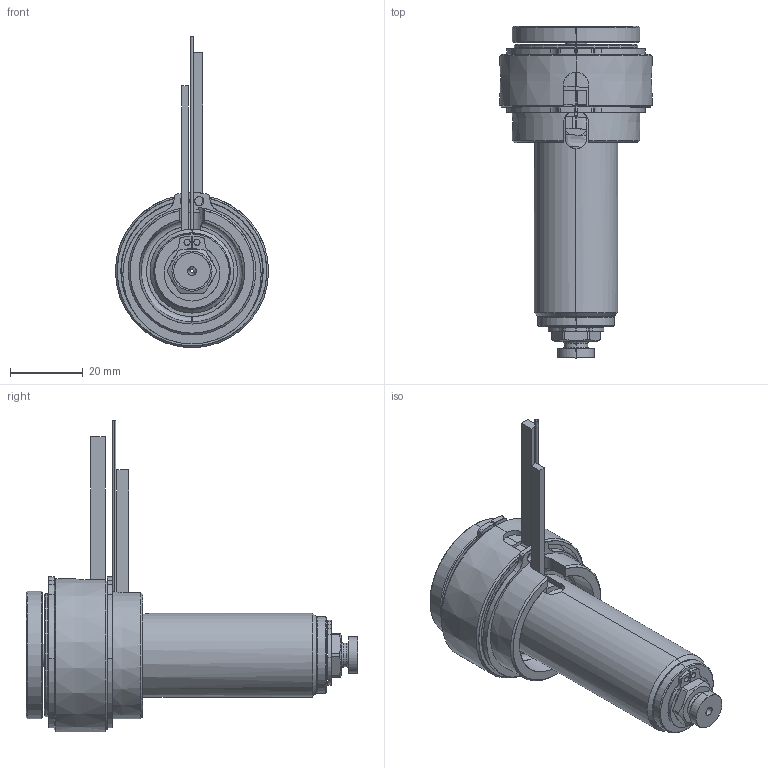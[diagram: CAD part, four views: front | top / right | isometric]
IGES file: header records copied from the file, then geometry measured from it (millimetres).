
Start section: SolidWorks IGES file using analytic representation for surfaces
Global section: file name: C:\Users\luca.EMPAD\Desktop\TEM\UGBE3501-S-A-5 [Ød-1.0 P-0 ØC-6.0].IGS; native system: SolidWorks 2012; preprocessor: SolidWorks 2012; author: luca; date: 120330.135414; units: millimetre
Bounding box: 42 x 91 x 85.4 mm (x, y, z)
Surface area: 27586.5 mm2 (no closed solid volume)
Topology: 0 solids, 0 shells, 195 faces, 3550 edges, 3550 vertices
Faces by surface type: revolution 127, bspline 68
